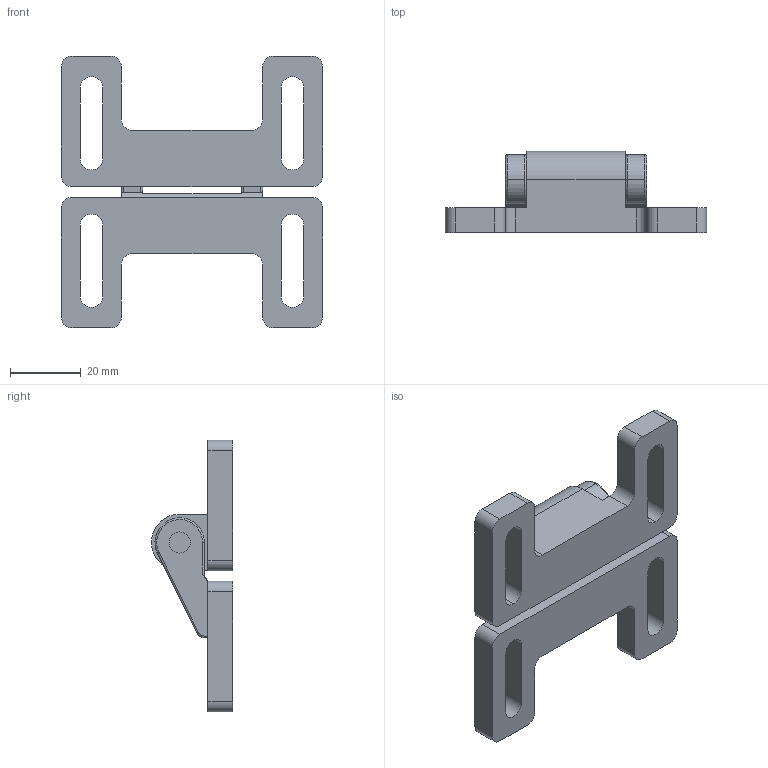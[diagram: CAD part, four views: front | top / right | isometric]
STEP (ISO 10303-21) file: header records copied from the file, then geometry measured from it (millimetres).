
FILE_DESCRIPTION (( 'STEP AP203' ), '1' );
FILE_NAME ('assm big hinge.STEP', '2018-03-15T12:12:19', ( '' ), ( '' ), 'SwSTEP 2.0', 'SolidWorks 2013', '' );
FILE_SCHEMA (( 'CONFIG_CONTROL_DESIGN' ));
Length unit declared in the file: millimetre
Products named in the file (4): big hinge 1; big hinge 2; pin; assm big hinge
Assembly tree (3 placements, depth 2):
  assm big hinge
    big hinge 1
    big hinge 2
    pin
Bounding box: 74 x 23 x 77 mm (x, y, z)
Volume: 35273.8 mm3; surface area: 16086.5 mm2
Topology: 3 solids, 3 shells, 103 faces, 276 edges, 179 vertices
Faces by surface type: cylinder 53, plane 43, torus 7
Entity records: 3680 total; most frequent: DIRECTION 596, CARTESIAN_POINT 582, ORIENTED_EDGE 552, EDGE_CURVE 276, AXIS2_PLACEMENT_3D 217, VERTEX_POINT 179, VECTOR 162, LINE 162
